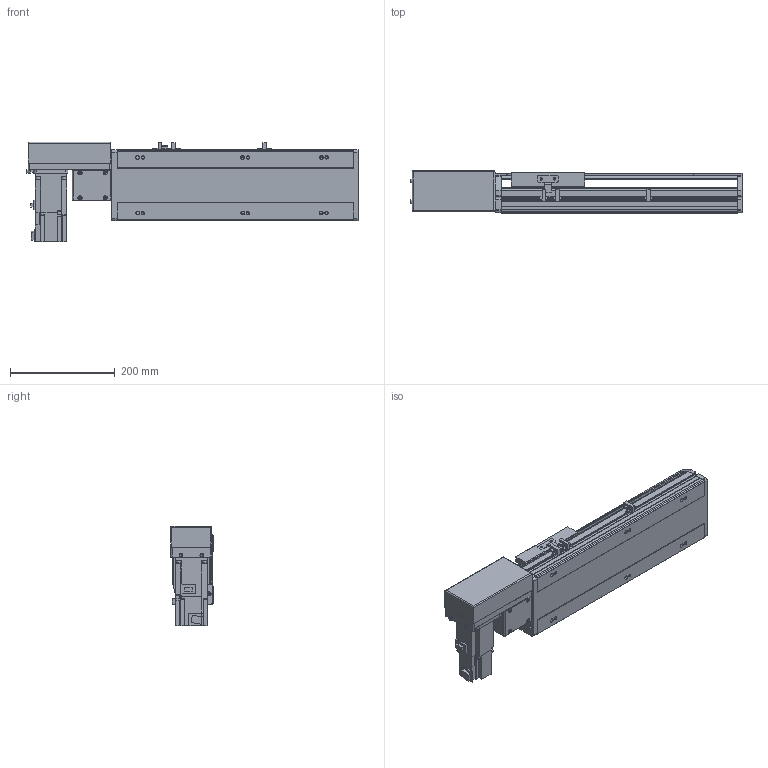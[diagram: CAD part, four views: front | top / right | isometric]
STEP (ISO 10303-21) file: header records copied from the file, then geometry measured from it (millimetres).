
FILE_DESCRIPTION( ( 'STEP AP214' ), '1' );
FILE_NAME( 'x:/temp/worker_27/temp/exporttempdir_6708_360_d7dVN/format_0/PBS140-P40-S200-R-T40-C1-N(0).stp', '2022-06-06T01:26:35', ( 'License CC BY-ND 4.0' ), ( 'CADENAS' ), ' ', 'PARTsolutions', ' ' );
FILE_SCHEMA( ( 'AUTOMOTIVE_DESIGN { 1 0 10303 214 1 1 1 1 }' ) );
Length unit declared in the file: millimetre
Products named in the file (7): PBS140-P40-S200-R-T40-C1-N(0); _PBS140-S200()_body; _PBS140T-R_motors; _T40-p1; _PBS140_sliser; _PBS140_plant; _PBS140_sensor
Assembly tree (8 placements, depth 2):
  PBS140-P40-S200-R-T40-C1-N(0)
    _PBS140-S200()_body
    _PBS140T-R_motors
    _T40-p1
    _PBS140_sliser
    _PBS140_plant
    _PBS140_sensor  x3
Bounding box: 633 x 80.5 x 189.7 mm (x, y, z)
Volume: 3160031.1 mm3; surface area: 584646.5 mm2
Topology: 8 solids, 8 shells, 995 faces, 2636 edges, 1723 vertices
Faces by surface type: plane 662, cylinder 291, cone 32, sphere 8, torus 2
Full cylindrical faces by diameter (mm): 3.242 x4, 4 x2, 4.134 x4, 4.4 x8, 4.5 x2, 4.8 x4, 4.917 x14, 5.5 x7, 6 x2, 7 x8, 7.5 x8, 8 x12, 8.5 x4, 10.5 x6, 14 x1, 30 x2, 50 x2
Entity records: 36079 total; most frequent: CARTESIAN_POINT 5411, DIRECTION 4847, ORIENTED_EDGE 4612, EDGE_CURVE 2306, AXIS2_PLACEMENT_3D 1657, VERTEX_POINT 1581, LINE 1533, VECTOR 1533
